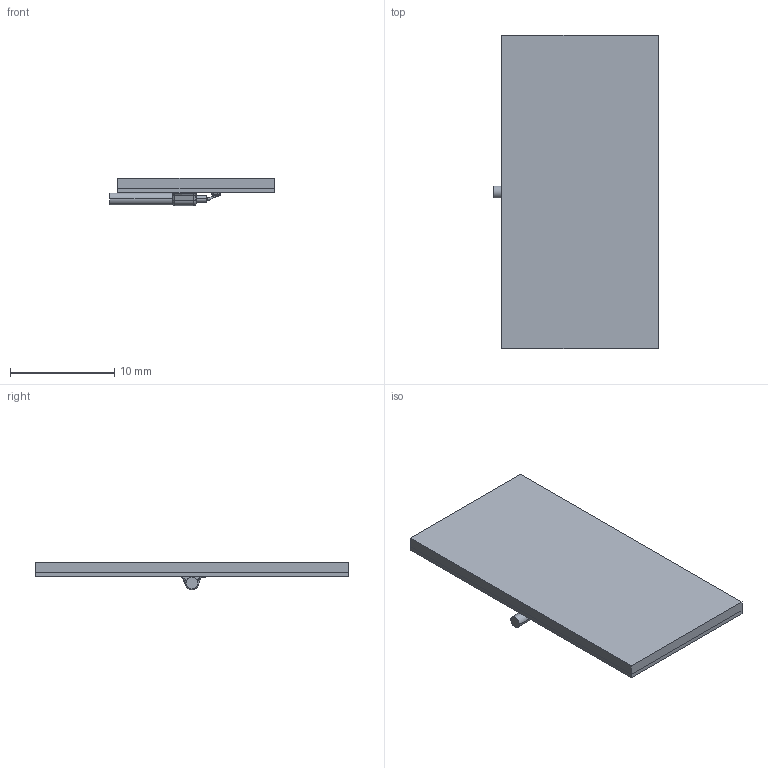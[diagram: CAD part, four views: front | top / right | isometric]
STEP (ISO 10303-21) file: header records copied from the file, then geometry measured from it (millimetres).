
FILE_DESCRIPTION((''),'2;1');
FILE_NAME('ANT_DUAL_ASM','2020-08-11T',('G6003023'),(''),'PRO/ENGINEER BY PARAMETRIC TECHNOLOGY CORPORATION, 2013150','PRO/ENGINEER BY PARAMETRIC TECHNOLOGY CORPORATION, 2013150','');
FILE_SCHEMA(('CONFIG_CONTROL_DESIGN'));
Length unit declared in the file: millimetre
Products named in the file (4): ANT_SPONGE; ANT_PCB; ANT_PCB_CABLE_1; ANT_DUAL_ASM
Assembly tree (3 placements, depth 2):
  ANT_DUAL_ASM
    ANT_SPONGE
    ANT_PCB
    ANT_PCB_CABLE_1
Bounding box: 15.78 x 30 x 2.62 mm (x, y, z)
Volume: 640.1 mm3; surface area: 1968.6 mm2
Topology: 3 solids, 3 shells, 66 faces, 163 edges, 104 vertices
Faces by surface type: plane 28, cylinder 24, bspline 7, torus 7
Entity records: 3025 total; most frequent: CARTESIAN_POINT 1453, ORIENTED_EDGE 324, DIRECTION 281, EDGE_CURVE 162, AXIS2_PLACEMENT_3D 105, VERTEX_POINT 104, VECTOR 71, LINE 71
